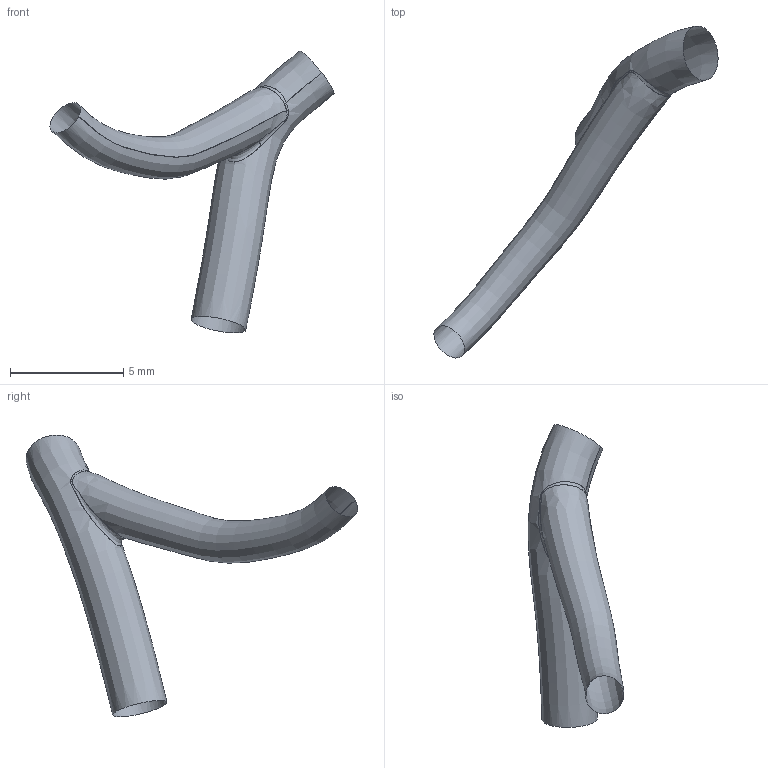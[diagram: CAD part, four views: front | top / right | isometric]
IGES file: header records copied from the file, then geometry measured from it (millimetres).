
Global section: file name: C:\Documents and Settings\Administrator\Desktop\FDA-Pig\Domestic LCA\Pig_000004\lcx.es.igs; native system: Rhinoceros ( May 19 2006 ); preprocessor: Trout Lake IGES 012 May 19 2006; date: 111205.183136; units: centimetre
Bounding box: 12.53 x 14.63 x 12.43 mm (x, y, z)
Surface area: 178.6 mm2 (no closed solid volume)
Topology: 0 solids, 0 shells, 5 faces, 70 edges, 69 vertices
Faces by surface type: bspline 5
